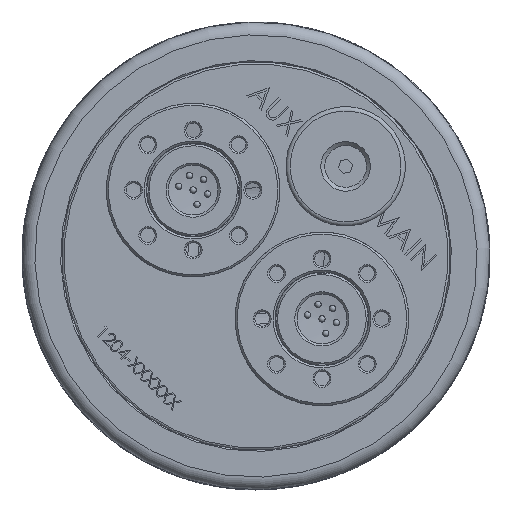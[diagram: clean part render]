
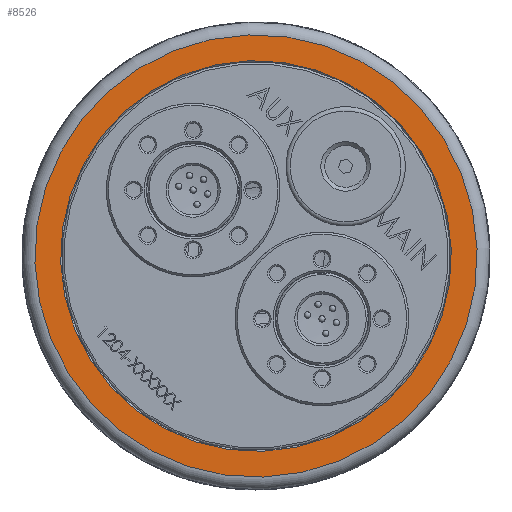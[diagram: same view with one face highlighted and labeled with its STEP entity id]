
A CAD part, front view. The second image highlights one B-rep face of the part: STEP entity #8526.
In plain terms, the highlighted planar face has unit normal (0, -1, 0).
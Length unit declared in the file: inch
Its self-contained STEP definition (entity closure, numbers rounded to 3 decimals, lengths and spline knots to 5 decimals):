
#1858 = AXIS2_PLACEMENT_3D ( 'NONE', #11945, #27213, #14166 ) ;
#1934 = FACE_BOUND ( 'NONE', #19748, .T. ) ;
#5103 = CIRCLE ( 'NONE', #19461, 2.04016 ) ;
#6027 = CARTESIAN_POINT ( 'NONE',  ( 2.03896, -0.6811, 0.06982 ) ) ;
#8526 = ADVANCED_FACE ( 'NONE', ( #1934, #21378 ), #10016, .F. ) ;
#10016 = PLANE ( 'NONE',  #14423 ) ;
#10305 = CARTESIAN_POINT ( 'NONE',  ( 0., -0.6811, 0. ) ) ;
#11945 = CARTESIAN_POINT ( 'NONE',  ( 0., -0.6811, 0. ) ) ;
#12367 = DIRECTION ( 'NONE',  ( 0., 1., 0. ) ) ;
#12453 = CARTESIAN_POINT ( 'NONE',  ( 1.80111, -0.6811, 0.06168 ) ) ;
#12469 = DIRECTION ( 'NONE',  ( 0.999, 0., 0.034 ) ) ;
#14166 = DIRECTION ( 'NONE',  ( 0.999, 0., 0.034 ) ) ;
#14423 = AXIS2_PLACEMENT_3D ( 'NONE', #25437, #12367, #27633 ) ;
#18591 = EDGE_LOOP ( 'NONE', ( #19600 ) ) ;
#19349 = EDGE_CURVE ( 'NONE', #22076, #22076, #27753, .T. ) ;
#19461 = AXIS2_PLACEMENT_3D ( 'NONE', #10305, #25540, #12469 ) ;
#19600 = ORIENTED_EDGE ( 'NONE', *, *, #20209, .T. ) ;
#19748 = EDGE_LOOP ( 'NONE', ( #24740 ) ) ;
#20209 = EDGE_CURVE ( 'NONE', #22222, #22222, #5103, .T. ) ;
#21378 = FACE_OUTER_BOUND ( 'NONE', #18591, .T. ) ;
#22076 = VERTEX_POINT ( 'NONE', #12453 ) ;
#22222 = VERTEX_POINT ( 'NONE', #6027 ) ;
#24740 = ORIENTED_EDGE ( 'NONE', *, *, #19349, .F. ) ;
#25437 = CARTESIAN_POINT ( 'NONE',  ( -0.06168, -0.6811, 1.80111 ) ) ;
#25540 = DIRECTION ( 'NONE',  ( 0., -1., 0. ) ) ;
#27213 = DIRECTION ( 'NONE',  ( 0., -1., 0. ) ) ;
#27633 = DIRECTION ( 'NONE',  ( -0.999, 0., -0.034 ) ) ;
#27753 = CIRCLE ( 'NONE', #1858, 1.80217 ) ;
